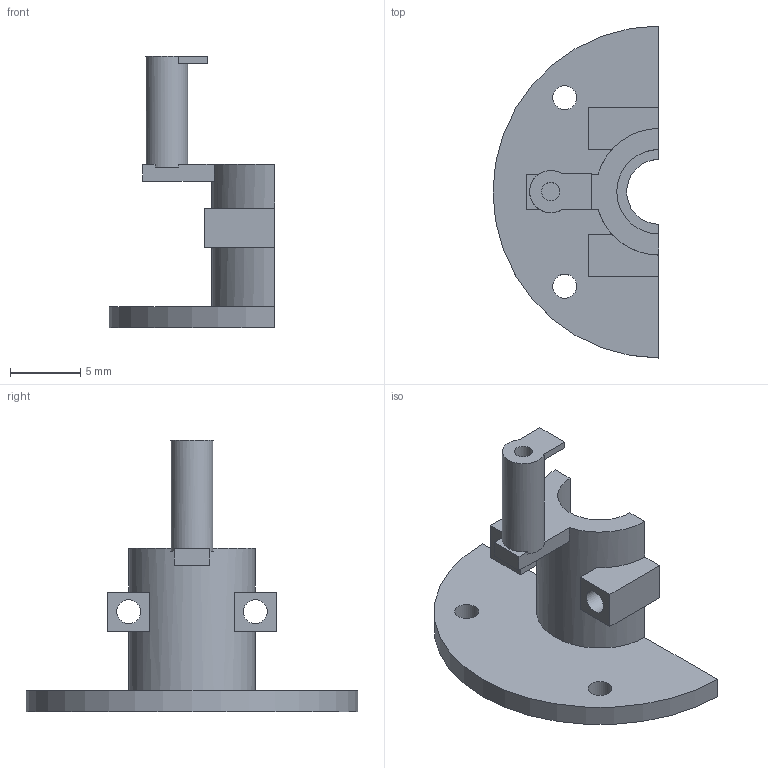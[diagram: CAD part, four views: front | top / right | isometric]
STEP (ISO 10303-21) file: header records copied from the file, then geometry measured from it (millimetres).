
FILE_DESCRIPTION(('Open CASCADE Model'),'2;1');
FILE_NAME('Open CASCADE Shape Model','2026-09-24T17:42:53',('Author'),( 'Open CASCADE'),'Open CASCADE STEP processor 7.8','Open CASCADE 7.8' ,'Unknown');
FILE_SCHEMA(('AUTOMOTIVE_DESIGN { 1 0 10303 214 1 1 1 1 }'));
Length unit declared in the file: millimetre
Products named in the file (1): Open CASCADE STEP translator 7.8 18
Bounding box: 11.8 x 23.6 x 19.29 mm (x, y, z)
Volume: 556.3 mm3; surface area: 1121.5 mm2
Topology: 1 solids, 1 shells, 51 faces, 144 edges, 96 vertices
Faces by surface type: plane 35, cylinder 16
Full cylindrical faces by diameter (mm): 1.3 x1, 1.7 x4, 3 x1
Entity records: 3447 total; most frequent: CARTESIAN_POINT 702, DIRECTION 463, ORIENTED_EDGE 288, PCURVE 288, DEFINITIONAL_REPRESENTATION 288, LINE 228, VECTOR 228, EDGE_CURVE 144
